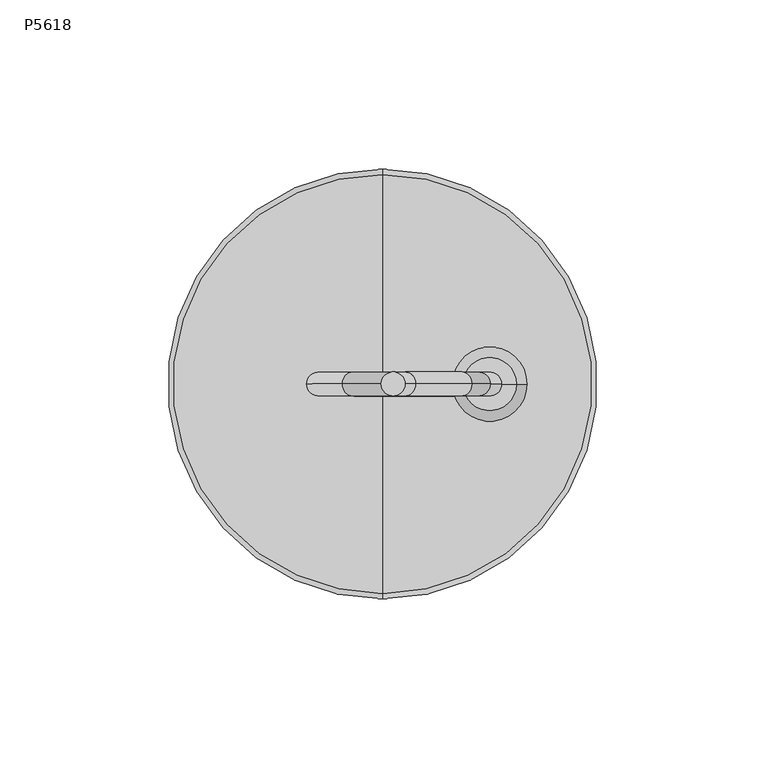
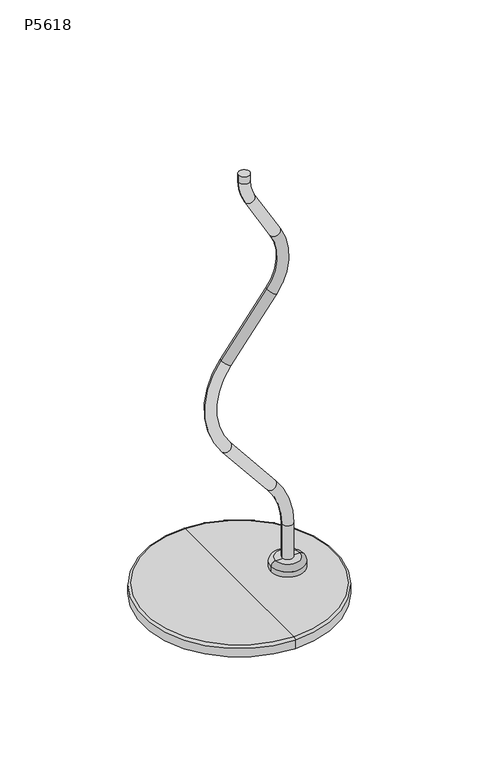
"""IFC4 building model written with IfcOpenShell, lengths in millimetres: light fixture geometry, Impact_Arch_Ltg-waf.r.3 : P5618."""

from ifc_helpers import new_model, si_unit, point, frame, origin, place, context, project, spatial, circle_curve, ellipse_curve, trimmed, source, transform, mapped, element, save
from ifc_brep_helpers import plane_surface, cylinder_surface, revolved_surface, advanced_brep


def p5618_bb80e7ce(model_context):
    return source(origin(), model_context, "Body", "AdvancedBrep", [
        advanced_brep(
        [(0.0, 63.5264903, 0.0), (0.0, -63.5264903, 0.0), (0.0, -63.5264903, 5.7785), (0.0, 63.5264903, 5.7785), (0.0, 0.0, 0.0), (0.0, 61.9389903, 7.366), (0.0, -61.9389903, 7.366), (0.0, 0.0, 7.366)],
        [
            (0, 1, circle_curve(frame((0.0, 0.0, 0.0), z_axis=(0.0, 0.0, 1.0), x_axis=(0.0, -1.0, 0.0)), 63.5264903)),
            (1, 2),
            (2, 3, circle_curve(frame((0.0, 0.0, 5.7785), z_axis=(0.0, 0.0, -1.0), x_axis=(0.0, -1.0, 0.0)), 63.5264903)),
            (3, 0),
            (1, 0, circle_curve(frame((0.0, 0.0, 0.0), z_axis=(0.0, 0.0, 1.0), x_axis=(0.0, -1.0, 0.0)), 63.5264903)),
            (3, 2, circle_curve(frame((0.0, 0.0, 5.7785), z_axis=(0.0, 0.0, -1.0), x_axis=(0.0, -1.0, 0.0)), 63.5264903)),
            (4, 1),
            (0, 4),
            (5, 6, circle_curve(frame((0.0, 0.0, 7.366), z_axis=(0.0, 0.0, 1.0), x_axis=(0.0, -1.0, 0.0)), 61.9389903)),
            (6, 7),
            (7, 5),
            (6, 5, circle_curve(frame((0.0, 0.0, 7.366), z_axis=(0.0, 0.0, 1.0), x_axis=(0.0, -1.0, 0.0)), 61.9389903)),
            (2, 6, circle_curve(frame((0.0, -61.9389903, 5.7785), z_axis=(-1.0, 0.0, 0.0), x_axis=(0.0, 1.0, 0.0)), 1.5875)),
            (5, 3, circle_curve(frame((0.0, 61.9389903, 5.7785), z_axis=(-1.0, 0.0, 0.0), x_axis=(0.0, -1.0, 0.0)), 1.5875)),
        ],
        [
            cylinder_surface(frame((0.0, 0.0, -9.7717916), z_axis=(0.0, 0.0, -1.0), x_axis=(0.0, -1.0, 0.0)), 63.5264903),
            plane_surface(frame((0.0, 0.0, 0.0), z_axis=(0.0, 0.0, -1.0), x_axis=(0.0, -1.0, 0.0))),
            plane_surface(frame((0.0, 0.0, 7.366), z_axis=(0.0, 0.0, 1.0), x_axis=(0.0, -1.0, 0.0))),
            revolved_surface(trimmed(ellipse_curve(frame((0.0, -61.9389903, 5.7785), z_axis=(1.0, 0.0, 0.0), x_axis=(0.0, 1.0, 0.0)), 1.5875, 1.5875), [point((0.0, -61.9389903, 7.366))], [point((0.0, -63.5264903, 5.7785))], True, "CARTESIAN"), (0.0, 0.0, -9.7717916), (0.0, 0.0, -1.0)),
        ],
        [
            (0, [[1, 2, 3, 4]]),
            (0, [[5, -4, 6, -2]]),
            (1, [[7, -1, 8]]),
            (1, [[-8, -5, -7]]),
            (2, [[9, 10, 11]]),
            (2, [[12, -11, -10]]),
            (3, [[-3, 13, -9, 14]]),
            (3, [[-6, -14, -12, -13]]),
        ],
    ),
        advanced_brep(
        [(31.75, 0.0, 14.351), (39.6031027, 0.0, 14.351), (23.8968973, 0.0, 14.351), (20.7570545, 0.0, 7.366), (42.7429455, 0.0, 7.366), (31.75, 0.0, 7.366), (20.7570545, 0.0, 11.2111572), (42.7429455, 0.0, 11.2111572)],
        [
            (0, 1),
            (1, 2, circle_curve(frame((31.75, 0.0, 14.351), z_axis=(0.0, 0.0, 1.0), x_axis=(1.0, 0.0, 0.0)), 7.8531027)),
            (2, 0),
            (2, 1, circle_curve(frame((31.75, 0.0, 14.351), z_axis=(0.0, 0.0, 1.0), x_axis=(1.0, 0.0, 0.0)), 7.8531027)),
            (3, 4, circle_curve(frame((31.75, 0.0, 7.366), z_axis=(0.0, 0.0, -1.0), x_axis=(1.0, 0.0, 0.0)), 10.9929455)),
            (4, 5),
            (5, 3),
            (4, 3, circle_curve(frame((31.75, 0.0, 7.366), z_axis=(0.0, 0.0, -1.0), x_axis=(1.0, 0.0, 0.0)), 10.9929455)),
            (6, 7, circle_curve(frame((31.75, 0.0, 11.2111572), z_axis=(0.0, 0.0, -1.0), x_axis=(1.0, 0.0, 0.0)), 10.9929455)),
            (7, 4),
            (3, 6),
            (7, 6, circle_curve(frame((31.75, 0.0, 11.2111572), z_axis=(0.0, 0.0, -1.0), x_axis=(1.0, 0.0, 0.0)), 10.9929455)),
            (1, 7, circle_curve(frame((39.6031027, 0.0, 11.2111572), z_axis=(0.0, 1.0, 0.0), x_axis=(1.0, 0.0, 0.0)), 3.1398428)),
            (6, 2, circle_curve(frame((23.8968973, 0.0, 11.2111572), z_axis=(0.0, 1.0, 0.0), x_axis=(-1.0, 0.0, 0.0)), 3.1398428)),
        ],
        [
            plane_surface(frame((31.75, 0.0, 14.351), z_axis=(0.0, 0.0, 1.0), x_axis=(1.0, 0.0, 0.0))),
            plane_surface(frame((31.75, 0.0, 7.366), z_axis=(0.0, 0.0, -1.0), x_axis=(1.0, 0.0, 0.0))),
            cylinder_surface(frame((31.75, 0.0, 20.1361367), z_axis=(0.0, 0.0, 1.0), x_axis=(1.0, 0.0, 0.0)), 10.9929455),
            revolved_surface(trimmed(ellipse_curve(frame((39.6031027, 0.0, 11.2111572), z_axis=(0.0, -1.0, 0.0), x_axis=(1.0, 0.0, 0.0)), 3.1398428, 3.1398428), [point((42.7429455, 0.0, 11.2111572))], [point((39.6031027, 0.0, 14.351))], True, "CARTESIAN"), (31.75, 0.0, 20.1361367), (0.0, 0.0, 1.0)),
        ],
        [
            (0, [[1, 2, 3]]),
            (0, [[-3, 4, -1]]),
            (1, [[5, 6, 7]]),
            (1, [[8, -7, -6]]),
            (2, [[9, 10, -5, 11]]),
            (2, [[12, -11, -8, -10]]),
            (3, [[-2, 13, -9, 14]]),
            (3, [[-4, -14, -12, -13]]),
        ],
    ),
        advanced_brep(
        [(35.2628496, 0.0, 14.3508541), (28.1759769, 0.0, 14.3508541), (35.2628496, 0.0, 38.0127863), (28.1759769, 0.0, 38.0127863), (18.43433, 0.0, 65.5223487), (23.9418645, 0.0, 69.9822622), (-5.6345189, 0.0, 106.5060539), (-11.1420534, 0.0, 102.0461404), (-11.9661144, 0.0, 165.8676178), (-6.3452627, 0.0, 161.5513937), (23.7390917, 0.0, 200.7290849), (18.1182399, 0.0, 205.045309), (20.4729401, 0.0, 241.5381159), (26.6018809, 0.0, 245.0961841), (9.9112613, 0.0, 273.8465662), (3.7823205, 0.0, 270.2884981), (-0.4093526, 0.0, 285.8577249), (6.6775201, 0.0, 285.8577249), (6.6775201, 0.0, 291.1326686), (-0.4093526, 0.0, 291.1326686)],
        [
            (0, 1, circle_curve(frame((31.7194133, 0.0, 14.3508541), z_axis=(0.0, 0.0, -1.0), x_axis=(-1.0, 0.0, 0.0)), 3.5434363)),
            (1, 0, circle_curve(frame((31.7194133, 0.0, 14.3508541), z_axis=(0.0, 0.0, -1.0), x_axis=(-1.0, 0.0, 0.0)), 3.5434363)),
            (0, 2),
            (2, 3, circle_curve(frame((31.7194133, 0.0, 38.0127863), z_axis=(0.0, 0.0, -1.0), x_axis=(-1.0, 0.0, 0.0)), 3.5434363)),
            (3, 1),
            (3, 2, circle_curve(frame((31.7194133, 0.0, 38.0127863), z_axis=(0.0, 0.0, -1.0), x_axis=(-1.0, 0.0, 0.0)), 3.5434363)),
            (4, 3, circle_curve(frame((-15.5371504, 0.0, 38.0127863), z_axis=(0.0, 1.0, 0.0), x_axis=(1.0, 0.0, 0.0)), 43.7131273)),
            (2, 5, circle_curve(frame((-15.5371504, 0.0, 38.0127863), z_axis=(0.0, -1.0, 0.0), x_axis=(1.0, 0.0, 0.0)), 50.8)),
            (5, 4, circle_curve(frame((21.1880972, 0.0, 67.7523054), z_axis=(0.6293203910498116, 0.0, -0.7771459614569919), x_axis=(-0.7771459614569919, 0.0, -0.6293203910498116)), 3.5434363)),
            (4, 5, circle_curve(frame((21.1880972, 0.0, 67.7523054), z_axis=(0.6293203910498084, 0.0, -0.7771459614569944), x_axis=(-0.7771459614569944, 0.0, -0.6293203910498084)), 3.5434363)),
            (5, 6),
            (6, 7, circle_curve(frame((-8.3882861, 0.0, 104.2760971), z_axis=(0.6293203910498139, 0.0, -0.77714596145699), x_axis=(-0.77714596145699, 0.0, -0.6293203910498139)), 3.5434363)),
            (7, 4),
            (7, 6, circle_curve(frame((-8.3882861, 0.0, 104.2760971), z_axis=(0.6293203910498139, 0.0, -0.77714596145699), x_axis=(-0.77714596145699, 0.0, -0.6293203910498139)), 3.5434363)),
            (8, 7, circle_curve(frame((28.9096191, 0.0, 134.4793453), z_axis=(0.0, -1.0, 0.0), x_axis=(-0.7771459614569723, 0.0, -0.6293203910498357)), 51.5368727)),
            (6, 9, circle_curve(frame((28.9096191, 0.0, 134.4793453), z_axis=(0.0, 1.0, 0.0), x_axis=(-0.7771459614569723, 0.0, -0.6293203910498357)), 44.45)),
            (9, 8, circle_curve(frame((-9.1556885, 0.0, 163.7095058), z_axis=(-0.6090449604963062, 0.0, -0.7931356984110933), x_axis=(-0.7931356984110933, 0.0, 0.6090449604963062)), 3.5434363)),
            (8, 9, circle_curve(frame((-9.1556885, 0.0, 163.7095058), z_axis=(-0.6090449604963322, 0.0, -0.7931356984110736), x_axis=(-0.7931356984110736, 0.0, 0.6090449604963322)), 3.5434363)),
            (9, 10),
            (10, 11, circle_curve(frame((20.9286658, 0.0, 202.887197), z_axis=(-0.6090449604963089, 0.0, -0.7931356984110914), x_axis=(-0.7931356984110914, 0.0, 0.6090449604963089)), 3.5434363)),
            (11, 8),
            (11, 10, circle_curve(frame((20.9286658, 0.0, 202.887197), z_axis=(-0.6090449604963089, 0.0, -0.7931356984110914), x_axis=(-0.7931356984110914, 0.0, 0.6090449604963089)), 3.5434363)),
            (12, 11, circle_curve(frame((-7.9311686, 0.0, 225.0485204), z_axis=(0.0, 1.0, 0.0), x_axis=(0.7931356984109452, 0.0, -0.6090449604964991)), 32.8435709)),
            (10, 13, circle_curve(frame((-7.9311686, 0.0, 225.0485204), z_axis=(0.0, -1.0, 0.0), x_axis=(0.7931356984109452, 0.0, -0.6090449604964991)), 39.9304436)),
            (13, 12, circle_curve(frame((23.5374105, 0.0, 243.31715), z_axis=(0.5020646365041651, 0.0, -0.8648300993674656), x_axis=(-0.8648300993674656, 0.0, -0.5020646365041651)), 3.5434363)),
            (12, 13, circle_curve(frame((23.5374105, 0.0, 243.31715), z_axis=(0.502064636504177, 0.0, -0.8648300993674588), x_axis=(-0.8648300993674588, 0.0, -0.502064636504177)), 3.5434363)),
            (13, 14),
            (14, 15, circle_curve(frame((6.8467909, 0.0, 272.0675322), z_axis=(0.5020646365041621, 0.0, -0.8648300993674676), x_axis=(-0.8648300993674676, 0.0, -0.5020646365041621)), 3.5434363)),
            (15, 12),
            (15, 14, circle_curve(frame((6.8467909, 0.0, 272.0675322), z_axis=(0.5020646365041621, 0.0, -0.8648300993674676), x_axis=(-0.8648300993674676, 0.0, -0.5020646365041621)), 3.5434363)),
            (16, 15, circle_curve(frame((30.6010507, 0.0, 285.8577249), z_axis=(0.0, -1.0, 0.0), x_axis=(-0.8648300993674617, 0.0, -0.502064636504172)), 31.0104033)),
            (14, 17, circle_curve(frame((30.6010507, 0.0, 285.8577249), z_axis=(0.0, 1.0, 0.0), x_axis=(-0.8648300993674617, 0.0, -0.502064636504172)), 23.9235306)),
            (17, 16, circle_curve(frame((3.1340837, 0.0, 285.8577249), z_axis=(0.0, 0.0, -1.0), x_axis=(-1.0, 0.0, 0.0)), 3.5434363)),
            (16, 17, circle_curve(frame((3.1340837, 0.0, 285.8577249), z_axis=(0.0, 0.0, -1.0), x_axis=(-1.0, 0.0, 0.0)), 3.5434363)),
            (18, 19, circle_curve(frame((3.1340837, 0.0, 291.1326686), z_axis=(0.0, 0.0, 1.0), x_axis=(-1.0, 0.0, 0.0)), 3.5434363)),
            (19, 18, circle_curve(frame((3.1340837, 0.0, 291.1326686), z_axis=(0.0, 0.0, 1.0), x_axis=(-1.0, 0.0, 0.0)), 3.5434363)),
            (17, 18),
            (19, 16),
        ],
        [
            plane_surface(frame((35.2628496, 0.0, 14.3508541), z_axis=(0.0, 0.0, -1.0), x_axis=(0.0, -1.0, 0.0))),
            cylinder_surface(frame((31.7194133, 0.0, 14.3508541), z_axis=(0.0, 0.0, -1.0), x_axis=(-1.0, 0.0, 0.0)), 3.5434363),
            revolved_surface(trimmed(ellipse_curve(frame((31.7194133, 0.0, 38.0127863), z_axis=(0.0, 0.0, -1.0), x_axis=(-1.0, 0.0, 0.0)), 3.5434363, 3.5434363), [point((35.2628496, 0.0, 38.0127863))], [point((28.1759769, 0.0, 38.0127863))], True, "CARTESIAN"), (-15.5371504, 0.0, 38.0127863), (0.0, -1.0, 0.0)),
            revolved_surface(trimmed(ellipse_curve(frame((31.7194133, 0.0, 38.0127863), z_axis=(0.0, 0.0, -1.0), x_axis=(-1.0, 0.0, 0.0)), 3.5434363, 3.5434363), [point((28.1759769, 0.0, 38.0127863))], [point((35.2628496, 0.0, 38.0127863))], True, "CARTESIAN"), (-15.5371504, 0.0, 38.0127863), (0.0, -1.0, 0.0)),
            cylinder_surface(frame((21.1880972, 0.0, 67.7523054), z_axis=(0.6293203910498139, 0.0, -0.77714596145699), x_axis=(-0.77714596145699, 0.0, -0.6293203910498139)), 3.5434363),
            revolved_surface(trimmed(ellipse_curve(frame((-8.3882861, 0.0, 104.2760971), z_axis=(0.6293203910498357, 0.0, -0.7771459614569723), x_axis=(-0.7771459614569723, 0.0, -0.6293203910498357)), 3.5434363, 3.5434363), [point((-5.6345189, 0.0, 106.5060539))], [point((-11.1420534, 0.0, 102.0461404))], True, "CARTESIAN"), (28.9096191, 0.0, 134.4793453), (0.0, 1.0, 0.0)),
            revolved_surface(trimmed(ellipse_curve(frame((-8.3882861, 0.0, 104.2760971), z_axis=(0.6293203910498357, 0.0, -0.7771459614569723), x_axis=(-0.7771459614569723, 0.0, -0.6293203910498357)), 3.5434363, 3.5434363), [point((-11.1420534, 0.0, 102.0461404))], [point((-5.6345189, 0.0, 106.5060539))], True, "CARTESIAN"), (28.9096191, 0.0, 134.4793453), (0.0, 1.0, 0.0)),
            cylinder_surface(frame((-9.1556885, 0.0, 163.7095058), z_axis=(-0.6090449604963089, 0.0, -0.7931356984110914), x_axis=(-0.7931356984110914, 0.0, 0.6090449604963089)), 3.5434363),
            revolved_surface(trimmed(ellipse_curve(frame((20.9286658, 0.0, 202.887197), z_axis=(-0.6090449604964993, 0.0, -0.7931356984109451), x_axis=(-0.7931356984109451, 0.0, 0.6090449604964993)), 3.5434363, 3.5434363), [point((23.7390917, 0.0, 200.7290849))], [point((18.1182399, 0.0, 205.045309))], True, "CARTESIAN"), (-7.9311686, 0.0, 225.0485204), (0.0, -1.0, 0.0)),
            revolved_surface(trimmed(ellipse_curve(frame((20.9286658, 0.0, 202.887197), z_axis=(-0.6090449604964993, 0.0, -0.7931356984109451), x_axis=(-0.7931356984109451, 0.0, 0.6090449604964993)), 3.5434363, 3.5434363), [point((18.1182399, 0.0, 205.045309))], [point((23.7390917, 0.0, 200.7290849))], True, "CARTESIAN"), (-7.9311686, 0.0, 225.0485204), (0.0, -1.0, 0.0)),
            cylinder_surface(frame((23.5374105, 0.0, 243.31715), z_axis=(0.5020646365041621, 0.0, -0.8648300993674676), x_axis=(-0.8648300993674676, 0.0, -0.5020646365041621)), 3.5434363),
            revolved_surface(trimmed(ellipse_curve(frame((6.8467909, 0.0, 272.0675322), z_axis=(0.5020646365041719, 0.0, -0.8648300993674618), x_axis=(-0.8648300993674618, 0.0, -0.5020646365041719)), 3.5434363, 3.5434363), [point((9.9112613, 0.0, 273.8465662))], [point((3.7823205, 0.0, 270.2884981))], True, "CARTESIAN"), (30.6010507, 0.0, 285.8577249), (0.0, 1.0, 0.0)),
            revolved_surface(trimmed(ellipse_curve(frame((6.8467909, 0.0, 272.0675322), z_axis=(0.5020646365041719, 0.0, -0.8648300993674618), x_axis=(-0.8648300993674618, 0.0, -0.5020646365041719)), 3.5434363, 3.5434363), [point((3.7823205, 0.0, 270.2884981))], [point((9.9112613, 0.0, 273.8465662))], True, "CARTESIAN"), (30.6010507, 0.0, 285.8577249), (0.0, 1.0, 0.0)),
            plane_surface(frame((6.6775201, 0.0, 291.1326686), z_axis=(0.0, 0.0, 1.0), x_axis=(0.0, -1.0, 0.0))),
            cylinder_surface(frame((3.1340837, 0.0, 285.8577249), z_axis=(0.0, 0.0, -1.0), x_axis=(-1.0, 0.0, 0.0)), 3.5434363),
        ],
        [
            (0, [[1, 2]]),
            (1, [[-1, 3, 4, 5]]),
            (1, [[-2, -5, 6, -3]]),
            (2, [[7, -4, 8, 9]]),
            (3, [[-8, -6, -7, 10]]),
            (4, [[-9, 11, 12, 13]]),
            (4, [[-10, -13, 14, -11]]),
            (5, [[15, -12, 16, 17]]),
            (6, [[-16, -14, -15, 18]]),
            (7, [[-17, 19, 20, 21]]),
            (7, [[-18, -21, 22, -19]]),
            (8, [[23, -20, 24, 25]]),
            (9, [[-24, -22, -23, 26]]),
            (10, [[-25, 27, 28, 29]]),
            (10, [[-26, -29, 30, -27]]),
            (11, [[31, -28, 32, 33]]),
            (12, [[-32, -30, -31, 34]]),
            (13, [[35, 36]]),
            (14, [[-33, 37, -36, 38]]),
            (14, [[-34, -38, -35, -37]]),
        ],
    ),
    ])


if __name__ == "__main__":
    model = new_model("IFC4")
    model_context = context("Model", 3, world=origin())
    ifc_project = project(units=[si_unit("LENGTHUNIT", "METRE", prefix="MILLI")], contexts=[model_context])
    site = spatial("IfcSite", under=ifc_project)
    building = spatial("IfcBuilding", under=site)
    placement = place(None, origin())
    p5618_shape = p5618_bb80e7ce(model_context)
    element("IfcLightFixture", 1, ObjectType="Impact_Arch_Ltg-waf.r.3 : P5618", at=placement, inside=building, context=model_context, shape_type="MappedRepresentation", body=[
        mapped(p5618_shape, transform((0.0, 0.0, 0.0), x_axis=(1.0, 0.0, 0.0), y_axis=(0.0, 1.0, 0.0), z_axis=(0.0, 0.0, 1.0))),
    ])
    save(model, "model.ifc")
